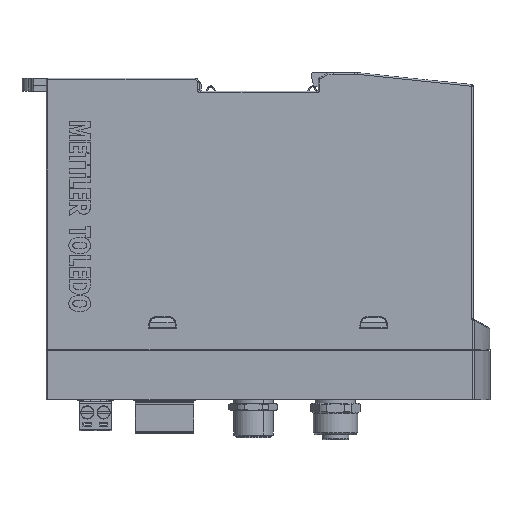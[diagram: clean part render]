
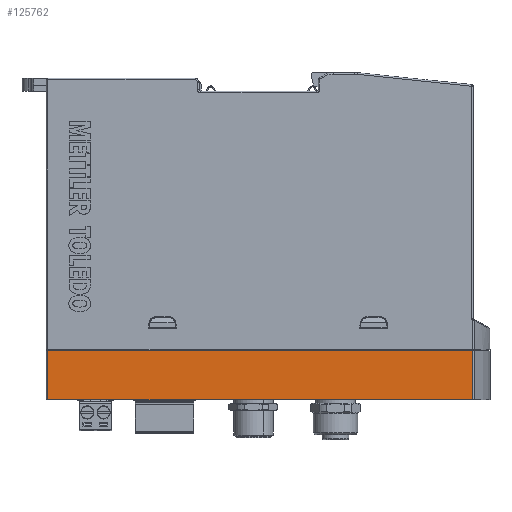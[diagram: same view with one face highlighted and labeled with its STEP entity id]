
A CAD part, front view. The second image highlights one B-rep face of the part: STEP entity #125762.
In plain terms, the highlighted planar face has unit normal (0, -1, 0).
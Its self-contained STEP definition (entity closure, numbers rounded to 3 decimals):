
#27366=DIRECTION('',(-1.,0.,0.));
#27367=VECTOR('',#27366,129.199);
#27368=CARTESIAN_POINT('',(129.699,-20.,15.2));
#27369=LINE('',#27368,#27367);
#27422=DIRECTION('',(0.,0.,1.));
#27423=VECTOR('',#27422,15.);
#27424=CARTESIAN_POINT('',(129.699,-20.,0.2));
#27425=LINE('',#27424,#27423);
#27426=DIRECTION('',(0.,0.,1.));
#27427=VECTOR('',#27426,15.);
#27428=CARTESIAN_POINT('',(0.5,-20.,0.2));
#27429=LINE('',#27428,#27427);
#27463=DIRECTION('',(-1.,0.,0.));
#27464=VECTOR('',#27463,129.199);
#27465=CARTESIAN_POINT('',(129.699,-20.,0.2));
#27466=LINE('',#27465,#27464);
#93991=CARTESIAN_POINT('',(129.699,-20.,15.2));
#93993=VERTEX_POINT('',#93991);
#93997=CARTESIAN_POINT('',(129.699,-20.,0.2));
#93998=VERTEX_POINT('',#93997);
#94016=CARTESIAN_POINT('',(0.5,-20.,15.2));
#94018=VERTEX_POINT('',#94016);
#94019=CARTESIAN_POINT('',(0.5,-20.,0.2));
#94020=VERTEX_POINT('',#94019);
#125750=CARTESIAN_POINT('',(130.,-20.,0.2));
#125751=DIRECTION('',(0.,-1.,0.));
#125752=DIRECTION('',(-1.,0.,0.));
#125753=AXIS2_PLACEMENT_3D('',#125750,#125751,#125752);
#125754=PLANE('',#125753);
#125755=ORIENTED_EDGE('',*,*,#125661,.F.);
#125757=ORIENTED_EDGE('',*,*,#125756,.T.);
#125758=ORIENTED_EDGE('',*,*,#125742,.T.);
#125759=ORIENTED_EDGE('',*,*,#125617,.F.);
#125760=EDGE_LOOP('',(#125755,#125757,#125758,#125759));
#125761=FACE_OUTER_BOUND('',#125760,.F.);
#125762=ADVANCED_FACE('',(#125761),#125754,.T.);
#125617=EDGE_CURVE('',#93993,#94018,#27369,.T.);
#125661=EDGE_CURVE('',#93998,#93993,#27425,.T.);
#125742=EDGE_CURVE('',#94020,#94018,#27429,.T.);
#125756=EDGE_CURVE('',#93998,#94020,#27466,.T.);
